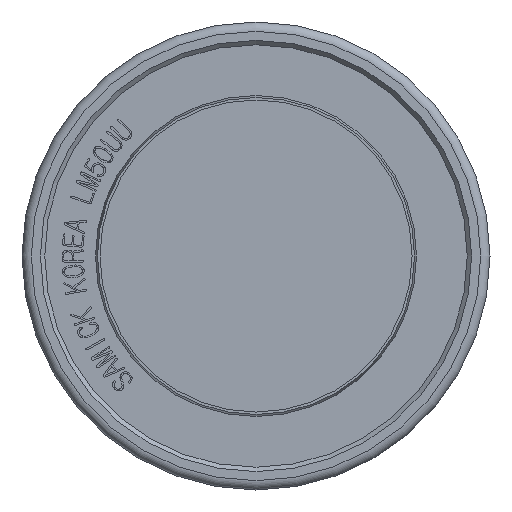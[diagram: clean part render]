
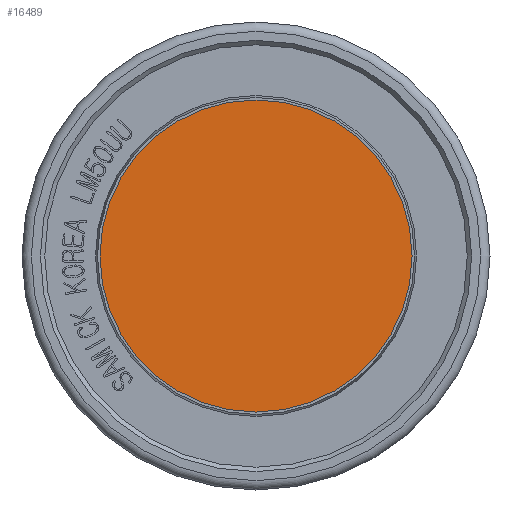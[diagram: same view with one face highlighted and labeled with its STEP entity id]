
A CAD part, front view. The second image highlights one B-rep face of the part: STEP entity #16489.
In plain terms, the highlighted planar face has unit normal (0, -1, 0).
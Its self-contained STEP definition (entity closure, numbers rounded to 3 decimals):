
#41=CIRCLE('',#16762,25.);
#351=PLANE('',#16764);
#1179=FACE_OUTER_BOUND('',#2066,.T.);
#2066=EDGE_LOOP('',(#14146));
#7098=VERTEX_POINT('',#28637);
#9461=EDGE_CURVE('',#7098,#7098,#41,.T.);
#14146=ORIENTED_EDGE('',*,*,#9461,.F.);
#16489=ADVANCED_FACE('',(#1179),#351,.T.);
#16762=AXIS2_PLACEMENT_3D('',#28639,#18399,#18400);
#16764=AXIS2_PLACEMENT_3D('',#28641,#18403,#18404);
#18399=DIRECTION('center_axis',(0.,1.,0.));
#18400=DIRECTION('ref_axis',(1.,0.,0.));
#18403=DIRECTION('center_axis',(0.,-1.,0.));
#18404=DIRECTION('ref_axis',(0.,0.,-1.));
#28637=CARTESIAN_POINT('',(-25.,-75.,0.));
#28639=CARTESIAN_POINT('Origin',(0.,-75.,0.));
#28641=CARTESIAN_POINT('Origin',(0.,-75.,0.));
